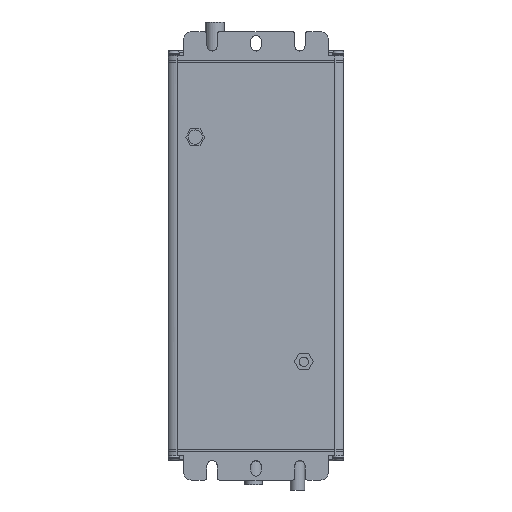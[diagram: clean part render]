
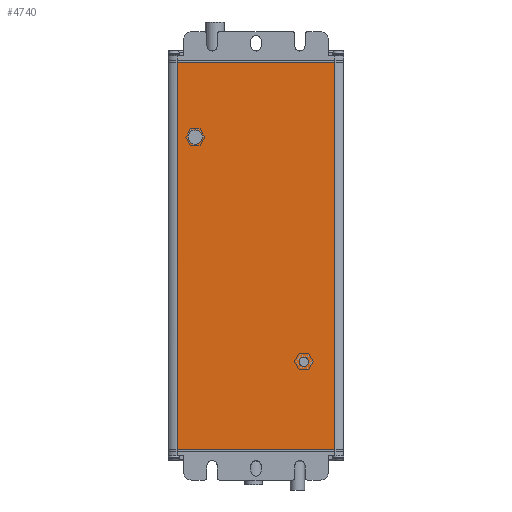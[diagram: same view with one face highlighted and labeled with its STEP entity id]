
A CAD part, front view. The second image highlights one B-rep face of the part: STEP entity #4740.
In plain terms, the highlighted planar face has unit normal (0, -1, 0).
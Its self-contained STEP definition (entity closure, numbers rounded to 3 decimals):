
#1964=CARTESIAN_POINT('',(30.55,-18.05,72.5));
#1966=DIRECTION('',(-1.,0.,0.));
#1967=VECTOR('',#1966,61.1);
#1968=CARTESIAN_POINT('',(30.55,-18.05,72.5));
#1969=LINE('',#1968,#1967);
#2414=CARTESIAN_POINT('',(-30.55,-18.05,-77.5));
#2416=DIRECTION('',(1.,0.,0.));
#2417=VECTOR('',#2416,61.1);
#2418=CARTESIAN_POINT('',(-30.55,-18.05,-77.5));
#2419=LINE('',#2418,#2417);
#2853=DIRECTION('',(0.,0.,-1.));
#2854=VECTOR('',#2853,150.);
#2855=CARTESIAN_POINT('',(-30.55,-18.05,72.5));
#2856=LINE('',#2855,#2854);
#2857=CARTESIAN_POINT('',(-23.5,-18.05,43.5));
#2858=DIRECTION('',(0.,-1.,0.));
#2859=DIRECTION('',(1.,0.,0.));
#2860=AXIS2_PLACEMENT_3D('',#2857,#2858,#2859);
#2862=CARTESIAN_POINT('',(-23.5,-18.05,43.5));
#2863=DIRECTION('',(0.,-1.,0.));
#2864=DIRECTION('',(-1.,0.,0.));
#2865=AXIS2_PLACEMENT_3D('',#2862,#2863,#2864);
#2867=CARTESIAN_POINT('',(18.5,-18.05,-43.5));
#2868=DIRECTION('',(0.,-1.,0.));
#2869=DIRECTION('',(0.,0.,-1.));
#2870=AXIS2_PLACEMENT_3D('',#2867,#2868,#2869);
#2872=CARTESIAN_POINT('',(18.5,-18.05,-43.5));
#2873=DIRECTION('',(0.,-1.,0.));
#2874=DIRECTION('',(0.,0.,1.));
#2875=AXIS2_PLACEMENT_3D('',#2872,#2873,#2874);
#2881=DIRECTION('',(0.,0.,1.));
#2882=VECTOR('',#2881,150.);
#2883=CARTESIAN_POINT('',(30.55,-18.05,-77.5));
#2884=LINE('',#2883,#2882);
#3296=VERTEX_POINT('',#1964);
#3297=CARTESIAN_POINT('',(-30.55,-18.05,72.5));
#3298=VERTEX_POINT('',#3297);
#3492=VERTEX_POINT('',#2414);
#3493=CARTESIAN_POINT('',(30.55,-18.05,-77.5));
#3494=VERTEX_POINT('',#3493);
#3587=CARTESIAN_POINT('',(-20.75,-18.05,43.5));
#3588=CARTESIAN_POINT('',(-26.25,-18.05,43.5));
#3589=VERTEX_POINT('',#3587);
#3590=VERTEX_POINT('',#3588);
#3591=CARTESIAN_POINT('',(18.5,-18.05,-45.331));
#3592=CARTESIAN_POINT('',(18.5,-18.05,-41.669));
#3593=VERTEX_POINT('',#3591);
#3594=VERTEX_POINT('',#3592);
#4716=CARTESIAN_POINT('',(0.25,-18.05,-52.5));
#4717=DIRECTION('',(0.,-1.,0.));
#4718=DIRECTION('',(1.,0.,0.));
#4719=AXIS2_PLACEMENT_3D('',#4716,#4717,#4718);
#4720=PLANE('',#4719);
#4721=ORIENTED_EDGE('',*,*,#3995,.F.);
#4722=ORIENTED_EDGE('',*,*,#4710,.F.);
#4723=ORIENTED_EDGE('',*,*,#3756,.F.);
#4725=ORIENTED_EDGE('',*,*,#4724,.F.);
#4726=EDGE_LOOP('',(#4721,#4722,#4723,#4725));
#4727=FACE_OUTER_BOUND('',#4726,.F.);
#4729=ORIENTED_EDGE('',*,*,#4728,.T.);
#4731=ORIENTED_EDGE('',*,*,#4730,.T.);
#4732=EDGE_LOOP('',(#4729,#4731));
#4733=FACE_BOUND('',#4732,.F.);
#4735=ORIENTED_EDGE('',*,*,#4734,.T.);
#4737=ORIENTED_EDGE('',*,*,#4736,.T.);
#4738=EDGE_LOOP('',(#4735,#4737));
#4739=FACE_BOUND('',#4738,.F.);
#2861=CIRCLE('',#2860,2.75);
#2866=CIRCLE('',#2865,2.75);
#2871=CIRCLE('',#2870,1.831);
#2876=CIRCLE('',#2875,1.831);
#3756=EDGE_CURVE('',#3296,#3298,#1969,.T.);
#3995=EDGE_CURVE('',#3492,#3494,#2419,.T.);
#4710=EDGE_CURVE('',#3298,#3492,#2856,.T.);
#4724=EDGE_CURVE('',#3494,#3296,#2884,.T.);
#4728=EDGE_CURVE('',#3589,#3590,#2861,.T.);
#4730=EDGE_CURVE('',#3590,#3589,#2866,.T.);
#4734=EDGE_CURVE('',#3593,#3594,#2871,.T.);
#4736=EDGE_CURVE('',#3594,#3593,#2876,.T.);
#4740=ADVANCED_FACE('',(#4727,#4733,#4739),#4720,.T.);
